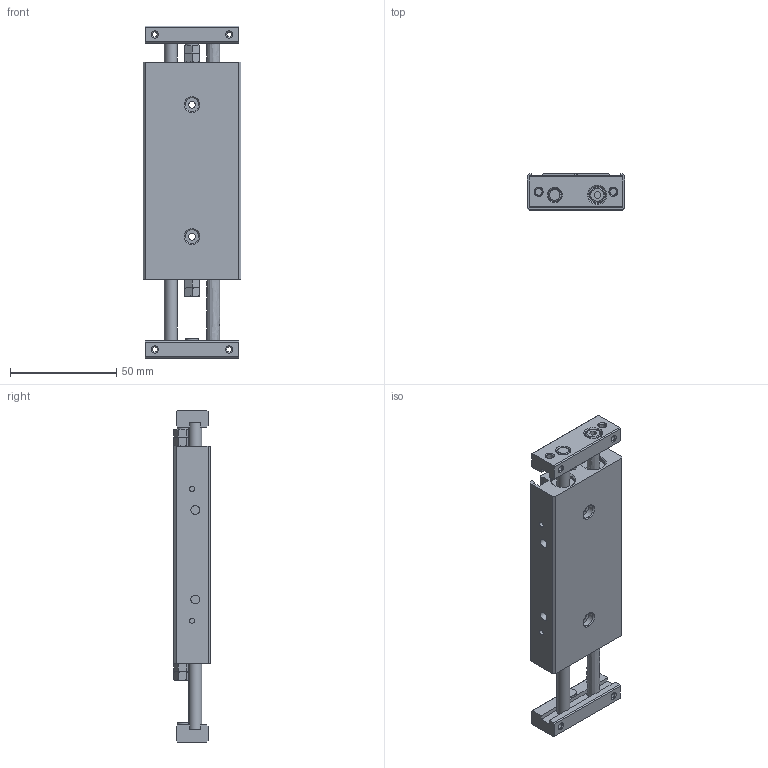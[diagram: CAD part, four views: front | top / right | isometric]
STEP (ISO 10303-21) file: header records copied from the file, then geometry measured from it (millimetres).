
FILE_DESCRIPTION((''),'2;1');
FILE_NAME('I:\3D電子目錄\氣缸\STX\STX\STX10\STX10x20.stp','2007-10-01T16:49:05',('Administrator'),(''),'Autodesk Inventor 11','Autodesk Inventor 11','');
FILE_SCHEMA(('AUTOMOTIVE_DESIGN { 1 0 10303 214 1 1 1 1 }'));
Length unit declared in the file: millimetre
Products named in the file (1): STX10
Bounding box: 46 x 17.04 x 156 mm (x, y, z)
Volume: 82936.9 mm3; surface area: 25898.8 mm2
Topology: 1 solids, 1 shells, 269 faces, 644 edges, 400 vertices
Faces by surface type: plane 135, cone 72, bspline 36, cylinder 22, torus 4
Full cylindrical faces by diameter (mm): 2.459 x2, 4.134 x2, 6 x6, 6.2 x2, 6.5 x2, 7 x2, 8 x2, 11 x2, 12 x2
Entity records: 7637 total; most frequent: CARTESIAN_POINT 2109, ORIENTED_EDGE 1082, DIRECTION 1076, EDGE_CURVE 541, AXIS2_PLACEMENT_3D 405, EDGE_LOOP 399, VERTEX_POINT 374, FACE_OUTER_BOUND 269
